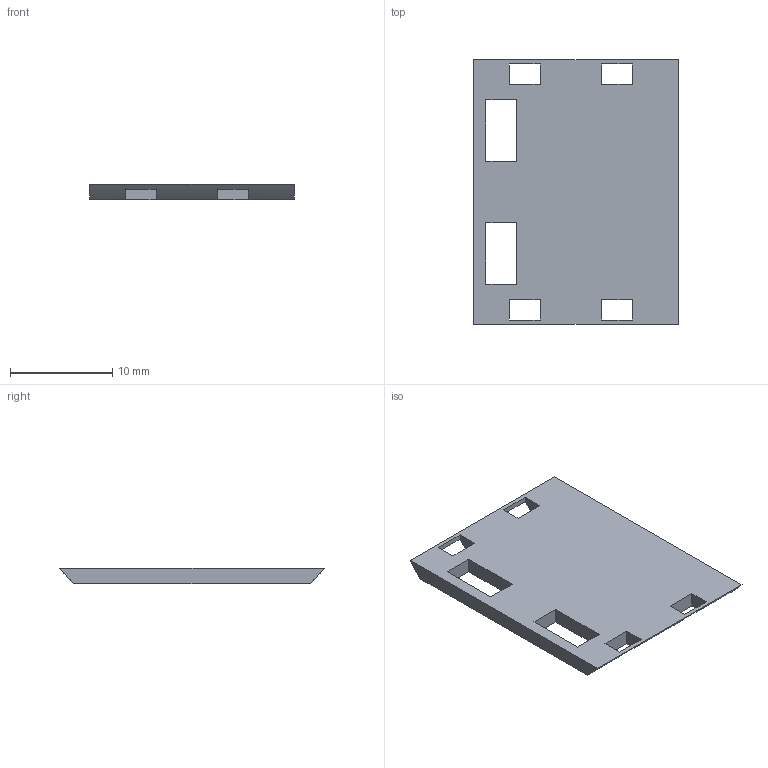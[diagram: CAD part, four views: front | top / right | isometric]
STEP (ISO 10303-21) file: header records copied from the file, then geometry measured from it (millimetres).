
FILE_DESCRIPTION(('SkyG Speed 90B - revision C6B-13 - 2026-10-11','N0M-vtx-shelf'),'2;1');
FILE_NAME('N0M-vtx-shelf_C6B-13','2026-10-11T17:52:50',('Author'),( 'Open CASCADE'),'Open CASCADE STEP processor 7.9','Open CASCADE 7.9' ,'Unknown');
FILE_SCHEMA(('AUTOMOTIVE_DESIGN { 1 0 10303 214 1 1 1 1 }'));
Length unit declared in the file: millimetre
Products named in the file (1): N0M-vtx-shelf C6B-13
Bounding box: 20 x 25.84 x 1.5 mm (x, y, z)
Volume: 651.2 mm3; surface area: 1106.8 mm2
Topology: 1 solids, 1 shells, 30 faces, 96 edges, 64 vertices
Faces by surface type: plane 28, cylinder 2
Entity records: 2222 total; most frequent: CARTESIAN_POINT 495, DIRECTION 250, ORIENTED_EDGE 192, PCURVE 192, DEFINITIONAL_REPRESENTATION 192, LINE 152, VECTOR 152, B_SPLINE_CURVE_WITH_KNOTS 112
